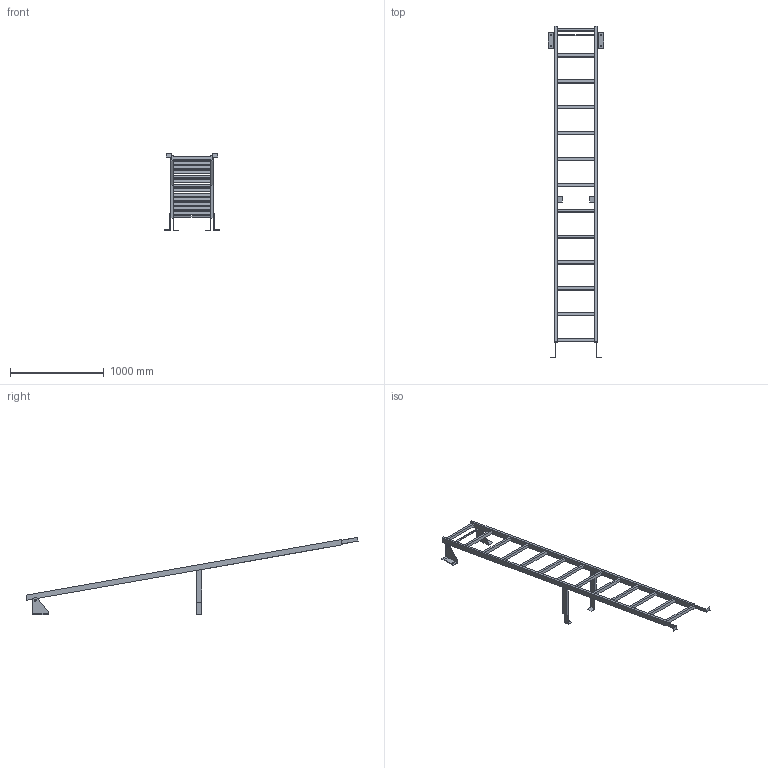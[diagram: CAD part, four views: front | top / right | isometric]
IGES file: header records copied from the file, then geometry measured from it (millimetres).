
Start section:  PTC IGES file: 52309323.igs
Global section: file name: 52309323.igs; native system: Creo Parametric by PTC Inc.; preprocessor: 2022162; author: wep; organization: Unknown; date: 20241017.083310; units: millimetre
Bounding box: 590 x 3537.97 x 821.28 mm (x, y, z)
Surface area: 2112361.8 mm2 (no closed solid volume)
Topology: 0 solids, 0 shells, 136 faces, 720 edges, 720 vertices
Faces by surface type: bspline 120, revolution 16
